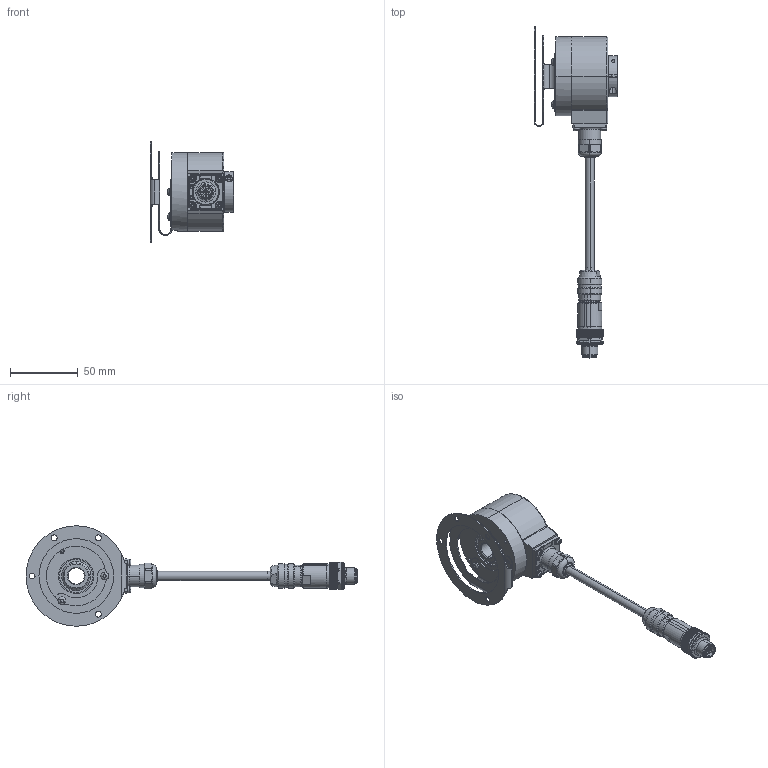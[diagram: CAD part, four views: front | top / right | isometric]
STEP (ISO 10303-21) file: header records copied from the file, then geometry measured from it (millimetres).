
FILE_DESCRIPTION (( 'STEP AP203' ), '1' );
FILE_NAME ('K58I.OXX.XXXXX.XC13512.6XR13.XXXX.step', '2025-12-08T11:37:10', ( '' ), ( '' ), 'SwSTEP 2.0', 'SolidWorks 2021', '' );
FILE_SCHEMA (( 'CONFIG_CONTROL_DESIGN' ));
Length unit declared in the file: millimetre
Products named in the file (1): K58I.OXX.XXXXX.XC13512.6XR13.XXXX
Bounding box: 61.59 x 244.49 x 74 mm (x, y, z)
Volume: 130925.6 mm3; surface area: 51386.3 mm2
Topology: 22 solids, 22 shells, 1699 faces, 4229 edges, 2603 vertices
Faces by surface type: cylinder 665, plane 589, cone 325, bspline 64, torus 40, sphere 16
Entity records: 54373 total; most frequent: CARTESIAN_POINT 14800, ORIENTED_EDGE 8406, DIRECTION 8218, EDGE_CURVE 4203, AXIS2_PLACEMENT_3D 3283, VERTEX_POINT 2601, EDGE_LOOP 1792, ADVANCED_FACE 1699
